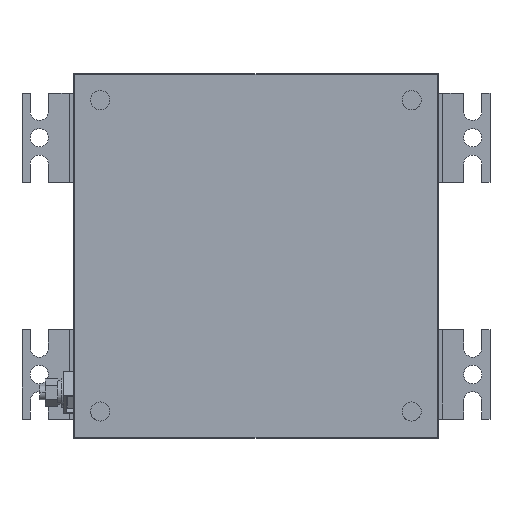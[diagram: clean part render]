
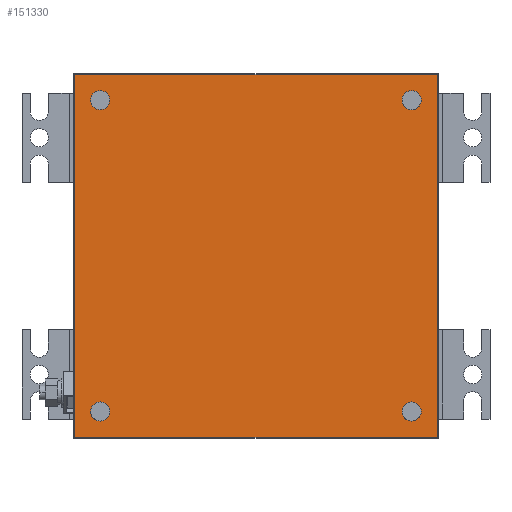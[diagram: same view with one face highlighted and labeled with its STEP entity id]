
A CAD part, top view. The second image highlights one B-rep face of the part: STEP entity #151330.
In plain terms, the highlighted planar face has unit normal (0, 0, 1).
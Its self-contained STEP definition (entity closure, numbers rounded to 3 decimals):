
#150220=CARTESIAN_POINT('',(69.35,100.,160.));
#150230=DIRECTION('',(0.,0.,1.));
#150240=DIRECTION('',(1.,0.,0.));
#150250=AXIS2_PLACEMENT_3D('',#150220,#150230,#150240);
#150260=PLANE('',#150250);
#150270=CARTESIAN_POINT('',(185.465,14.5,160.));
#150280=DIRECTION('',(0.,0.,1.));
#150290=DIRECTION('',(1.,0.,0.));
#150300=AXIS2_PLACEMENT_3D('',#150270,#150280,#150290);
#150310=CIRCLE('',#150300,5.25);
#150320=CARTESIAN_POINT('',(182.227,10.367,160.));
#150330=VERTEX_POINT('',#150320);
#150340=CARTESIAN_POINT('',(190.715,14.5,160.));
#150350=VERTEX_POINT('',#150340);
#150360=EDGE_CURVE('',#150330,#150350,#150310,.T.);
#150370=ORIENTED_EDGE('',*,*,#150360,.F.);
#150380=CARTESIAN_POINT('',(180.215,14.5,160.));
#150390=VERTEX_POINT('',#150380);
#150400=EDGE_CURVE('',#150350,#150390,#150310,.T.);
#150410=ORIENTED_EDGE('',*,*,#150400,.F.);
#150420=EDGE_CURVE('',#150390,#150330,#150310,.T.);
#150430=ORIENTED_EDGE('',*,*,#150420,.F.);
#150440=EDGE_LOOP('',(#150430,#150410,#150370));
#150450=FACE_BOUND('',#150440,.T.);
#150460=CARTESIAN_POINT('',(185.465,185.5,160.));
#150470=DIRECTION('',(0.,0.,1.));
#150480=DIRECTION('',(1.,0.,0.));
#150490=AXIS2_PLACEMENT_3D('',#150460,#150470,#150480);
#150500=CIRCLE('',#150490,5.25);
#150510=CARTESIAN_POINT('',(182.227,181.367,160.));
#150520=VERTEX_POINT('',#150510);
#150530=CARTESIAN_POINT('',(190.715,185.5,160.));
#150540=VERTEX_POINT('',#150530);
#150550=EDGE_CURVE('',#150520,#150540,#150500,.T.);
#150560=ORIENTED_EDGE('',*,*,#150550,.F.);
#150570=CARTESIAN_POINT('',(180.215,185.5,160.));
#150580=VERTEX_POINT('',#150570);
#150590=EDGE_CURVE('',#150540,#150580,#150500,.T.);
#150600=ORIENTED_EDGE('',*,*,#150590,.F.);
#150610=EDGE_CURVE('',#150580,#150520,#150500,.T.);
#150620=ORIENTED_EDGE('',*,*,#150610,.F.);
#150630=EDGE_LOOP('',(#150620,#150600,#150560));
#150640=FACE_BOUND('',#150630,.T.);
#150650=CARTESIAN_POINT('',(14.465,185.5,160.));
#150660=DIRECTION('',(0.,0.,1.));
#150670=DIRECTION('',(1.,0.,0.));
#150680=AXIS2_PLACEMENT_3D('',#150650,#150660,#150670);
#150690=CIRCLE('',#150680,5.25);
#150700=CARTESIAN_POINT('',(19.715,185.5,160.));
#150710=VERTEX_POINT('',#150700);
#150720=CARTESIAN_POINT('',(9.215,185.5,160.));
#150730=VERTEX_POINT('',#150720);
#150740=EDGE_CURVE('',#150710,#150730,#150690,.T.);
#150750=ORIENTED_EDGE('',*,*,#150740,.F.);
#150760=EDGE_CURVE('',#150730,#150710,#150690,.T.);
#150770=ORIENTED_EDGE('',*,*,#150760,.F.);
#150780=EDGE_LOOP('',(#150770,#150750));
#150790=FACE_BOUND('',#150780,.T.);
#150800=CARTESIAN_POINT('',(14.465,14.5,160.));
#150810=DIRECTION('',(0.,0.,1.));
#150820=DIRECTION('',(1.,0.,0.));
#150830=AXIS2_PLACEMENT_3D('',#150800,#150810,#150820);
#150840=CIRCLE('',#150830,5.25);
#150850=CARTESIAN_POINT('',(11.227,10.367,160.));
#150860=VERTEX_POINT('',#150850);
#150870=CARTESIAN_POINT('',(19.715,14.5,160.));
#150880=VERTEX_POINT('',#150870);
#150890=EDGE_CURVE('',#150860,#150880,#150840,.T.);
#150900=ORIENTED_EDGE('',*,*,#150890,.F.);
#150910=CARTESIAN_POINT('',(9.215,14.5,160.));
#150920=VERTEX_POINT('',#150910);
#150930=EDGE_CURVE('',#150880,#150920,#150840,.T.);
#150940=ORIENTED_EDGE('',*,*,#150930,.F.);
#150950=EDGE_CURVE('',#150920,#150860,#150840,.T.);
#150960=ORIENTED_EDGE('',*,*,#150950,.F.);
#150970=EDGE_LOOP('',(#150960,#150940,#150900));
#150980=FACE_BOUND('',#150970,.T.);
#150990=CARTESIAN_POINT('',(0.5,-309.,160.));
#151000=DIRECTION('',(0.,1.,0.));
#151010=VECTOR('',#151000,1.);
#151020=LINE('',#150990,#151010);
#151030=CARTESIAN_POINT('',(0.5,0.5,160.));
#151040=VERTEX_POINT('',#151030);
#151050=CARTESIAN_POINT('',(0.5,199.5,160.));
#151060=VERTEX_POINT('',#151050);
#151070=EDGE_CURVE('',#151040,#151060,#151020,.T.);
#151080=ORIENTED_EDGE('',*,*,#151070,.F.);
#151090=CARTESIAN_POINT('',(-302.,199.5,160.));
#151100=DIRECTION('',(-1.,0.,0.));
#151110=VECTOR('',#151100,1.);
#151120=LINE('',#151090,#151110);
#151130=CARTESIAN_POINT('',(199.5,199.5,160.));
#151140=VERTEX_POINT('',#151130);
#151150=EDGE_CURVE('',#151140,#151060,#151120,.T.);
#151160=ORIENTED_EDGE('',*,*,#151150,.T.);
#151170=CARTESIAN_POINT('',(199.5,-6.,160.));
#151180=DIRECTION('',(0.,-1.,0.));
#151190=VECTOR('',#151180,1.);
#151200=LINE('',#151170,#151190);
#151210=CARTESIAN_POINT('',(199.5,0.5,160.));
#151220=VERTEX_POINT('',#151210);
#151230=EDGE_CURVE('',#151140,#151220,#151200,.T.);
#151240=ORIENTED_EDGE('',*,*,#151230,.F.);
#151250=CARTESIAN_POINT('',(-302.,0.5,160.));
#151260=DIRECTION('',(-1.,0.,0.));
#151270=VECTOR('',#151260,1.);
#151280=LINE('',#151250,#151270);
#151290=EDGE_CURVE('',#151220,#151040,#151280,.T.);
#151300=ORIENTED_EDGE('',*,*,#151290,.F.);
#151310=EDGE_LOOP('',(#151300,#151240,#151160,#151080));
#151320=FACE_OUTER_BOUND('',#151310,.T.);
#151330=ADVANCED_FACE('',(#150450,#150640,#150790,#150980,#151320),
#150260,.T.);
